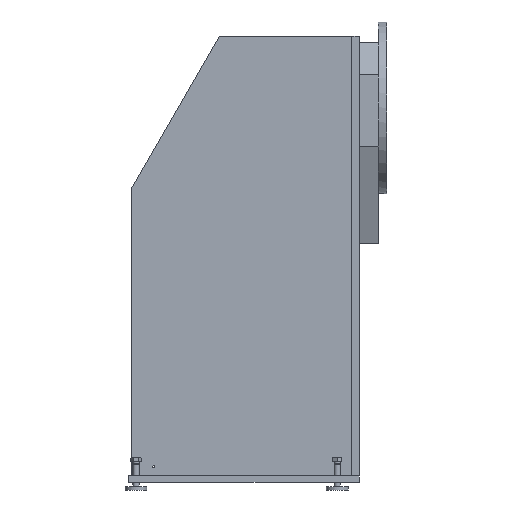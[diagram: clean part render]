
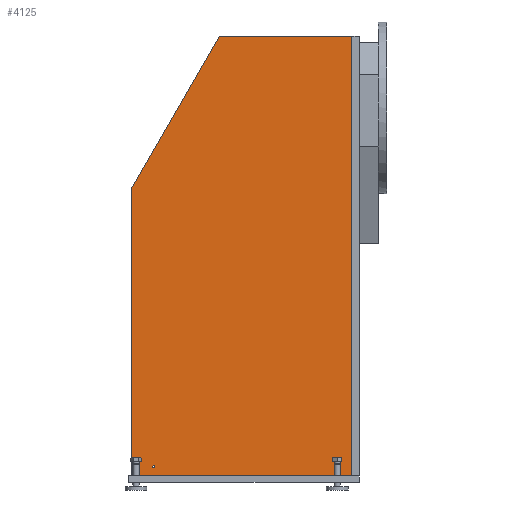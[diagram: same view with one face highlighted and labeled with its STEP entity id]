
A CAD part, front view. The second image highlights one B-rep face of the part: STEP entity #4125.
In plain terms, the highlighted planar face has unit normal (0, -1, 0).
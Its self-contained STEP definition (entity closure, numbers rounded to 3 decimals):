
#1473=CARTESIAN_POINT('',(-437.485,-240.,460.0));
#1474=VERTEX_POINT('',#1473);
#1481=CARTESIAN_POINT('',(-12.5,-240.,460.0));
#1482=VERTEX_POINT('',#1481);
#1483=CARTESIAN_POINT('',(-437.485,-240.,460.0));
#1484=DIRECTION('',(1.0,0.0,0.0));
#1485=VECTOR('',#1484,424.985);
#1486=LINE('',#1483,#1485);
#1487=EDGE_CURVE('',#1474,#1482,#1486,.T.);
#3961=CARTESIAN_POINT('',(-644.176,-240.,-920.));
#3962=VERTEX_POINT('',#3961);
#3963=CARTESIAN_POINT('',(-647.5,-240.,-920.));
#3964=DIRECTION('',(0.0,1.0,0.0));
#3965=DIRECTION('',(-1.0,0.0,0.0));
#3966=AXIS2_PLACEMENT_3D('',#3963,#3964,#3965);
#3967=CIRCLE('',#3966,3.324);
#3968=EDGE_CURVE('',#3962,#3962,#3967,.T.);
#3997=CARTESIAN_POINT('',(-717.5,-240.,-25.));
#3998=VERTEX_POINT('',#3997);
#4005=CARTESIAN_POINT('',(-717.5,-240.,-25.));
#4006=DIRECTION('',(0.5,0.,0.866));
#4007=VECTOR('',#4006,560.03);
#4008=LINE('',#4005,#4007);
#4009=EDGE_CURVE('',#3998,#1474,#4008,.T.);
#4028=CARTESIAN_POINT('',(-717.5,-240.,-950.));
#4029=VERTEX_POINT('',#4028);
#4036=CARTESIAN_POINT('',(-717.5,-240.,-950.));
#4037=DIRECTION('',(0.0,0.0,1.0));
#4038=VECTOR('',#4037,925.0);
#4039=LINE('',#4036,#4038);
#4040=EDGE_CURVE('',#4029,#3998,#4039,.T.);
#4098=CARTESIAN_POINT('',(-337.308,-240.,-285.425));
#4099=DIRECTION('',(0.0,1.0,0.0));
#4100=DIRECTION('',(-1.0,0.0,0.0));
#4101=AXIS2_PLACEMENT_3D('',#4098,#4099,#4100);
#4102=PLANE('',#4101);
#4103=CARTESIAN_POINT('',(-12.5,-240.,-950.0));
#4104=VERTEX_POINT('',#4103);
#4105=CARTESIAN_POINT('',(-12.5,-240.,460.0));
#4106=DIRECTION('',(0.0,0.0,-1.0));
#4107=VECTOR('',#4106,1410.0);
#4108=LINE('',#4105,#4107);
#4109=EDGE_CURVE('',#1482,#4104,#4108,.T.);
#4110=ORIENTED_EDGE('',*,*,#4109,.F.);
#4111=ORIENTED_EDGE('',*,*,#1487,.F.);
#4112=ORIENTED_EDGE('',*,*,#4009,.F.);
#4113=ORIENTED_EDGE('',*,*,#4040,.F.);
#4114=CARTESIAN_POINT('',(-12.5,-240.,-950.0));
#4115=DIRECTION('',(-1.0,0.0,0.0));
#4116=VECTOR('',#4115,705.0);
#4117=LINE('',#4114,#4116);
#4118=EDGE_CURVE('',#4104,#4029,#4117,.T.);
#4119=ORIENTED_EDGE('',*,*,#4118,.F.);
#4120=EDGE_LOOP('',(#4110,#4111,#4112,#4113,#4119));
#4121=FACE_OUTER_BOUND('',#4120,.T.);
#4122=ORIENTED_EDGE('',*,*,#3968,.T.);
#4123=EDGE_LOOP('',(#4122));
#4124=FACE_BOUND('',#4123,.T.);
#4125=ADVANCED_FACE('',(#4121,#4124),#4102,.F.);
